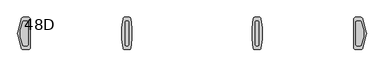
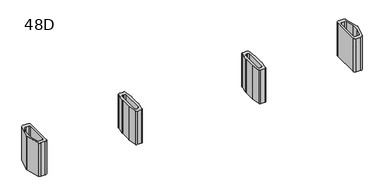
"""IFC4 building model written with IfcOpenShell, lengths in millimetres: furniture geometry, Coalesse_AM_Table_Conference_ETable2_SoftRadiused_24ft_FourBase : 48D."""

from ifc_helpers import new_model, si_unit, frame, origin, place, context, project, spatial, polyline, circle_curve, source, transform, mapped, element, save
from ifc_brep_helpers import plane_surface, cylinder_surface, revolved_surface, advanced_brep


def furniture_48d_02159c9c(model_context):
    return source(origin(), model_context, "Body", "AdvancedBrep", [
        advanced_brep(
        [(1254.91875, 206.375, 3.175), (1229.51875, 231.775, 3.175), (1208.88125, 231.775, 3.175), (1183.48125, 206.375, 3.175), (1183.48125, -206.375, 3.175), (1208.88125, -231.775, 3.175), (1229.51875, -231.775, 3.175), (1254.91875, -206.375, 3.175), (1158.08125, 206.375, 0.0), (1208.88125, 257.175, 0.0), (1229.51875, 257.175, 0.0), (1280.31875, 206.375, 0.0), (1280.31875, -206.375, 0.0), (1229.51875, -257.175, 0.0), (1208.88125, -257.175, 0.0), (1158.08125, -206.375, 0.0), (1158.08125, -206.375, 3.175), (1158.08125, 206.375, 3.175), (1208.88125, -257.175, 3.175), (1229.51875, -257.175, 3.175), (1280.31875, -206.375, 3.175), (1280.31875, 206.375, 3.175), (1229.51875, 257.175, 3.175), (1208.88125, 257.175, 3.175), (1126.5784026, 106.2976848, 698.5), (1126.33125, 102.7629613, 698.5), (1126.33125, -102.7629613, 698.5), (1126.5784026, -106.2976848, 698.5), (1151.4011625, -282.9347235, 698.5), (1176.5540098, -304.8, 698.5), (1261.8459902, -304.8, 698.5), (1286.9988375, -282.9347235, 698.5), (1311.8215974, -106.2976848, 698.5), (1312.06875, -102.7629613, 698.5), (1312.06875, 102.7629613, 698.5), (1311.8215974, 106.2976848, 698.5), (1286.9988375, 282.9347235, 698.5), (1261.8459902, 304.8, 698.5), (1176.5540098, 304.8, 698.5), (1151.4011625, 282.9347235, 698.5), (1229.51875, 231.775, 698.5), (1254.91875, 206.375, 698.5), (1254.91875, -206.375, 698.5), (1229.51875, -231.775, 698.5), (1208.88125, -231.775, 698.5), (1183.48125, -206.375, 698.5), (1183.48125, 206.375, 698.5), (1208.88125, 231.775, 698.5), (1126.5784026, 106.2976848, 3.175), (1151.4011625, 282.9347235, 3.175), (1176.5540098, 304.8, 3.175), (1261.8459902, 304.8, 3.175), (1286.9988375, 282.9347235, 3.175), (1311.8215974, 106.2976848, 3.175), (1312.06875, 102.7629613, 3.175), (1312.06875, -102.7629613, 3.175), (1311.8215974, -106.2976848, 3.175), (1286.9988375, -282.9347235, 3.175), (1261.8459902, -304.8, 3.175), (1176.5540098, -304.8, 3.175), (1151.4011625, -282.9347235, 3.175), (1126.5784026, -106.2976848, 3.175), (1126.33125, -102.7629613, 3.175), (1126.33125, 102.7629613, 3.175)],
        [
            (0, 1, circle_curve(frame((1229.51875, 206.375, 3.175), z_axis=(0.0, 0.0, 1.0), x_axis=(1.0, 0.0, 0.0)), 25.4)),
            (1, 2),
            (2, 3, circle_curve(frame((1208.88125, 206.375, 3.175), z_axis=(0.0, 0.0, 1.0), x_axis=(1.0, 0.0, 0.0)), 25.4)),
            (3, 4),
            (4, 5, circle_curve(frame((1208.88125, -206.375, 3.175), z_axis=(0.0, 0.0, 1.0), x_axis=(1.0, 0.0, 0.0)), 25.4)),
            (5, 6),
            (6, 7, circle_curve(frame((1229.51875, -206.375, 3.175), z_axis=(0.0, 0.0, 1.0), x_axis=(1.0, 0.0, 0.0)), 25.4)),
            (7, 0),
            (8, 9, circle_curve(frame((1208.88125, 206.375, 0.0), z_axis=(0.0, 0.0, -1.0), x_axis=(1.0, 0.0, 0.0)), 50.8)),
            (9, 10),
            (10, 11, circle_curve(frame((1229.51875, 206.375, 0.0), z_axis=(0.0, 0.0, -1.0), x_axis=(1.0, 0.0, 0.0)), 50.8)),
            (11, 12),
            (12, 13, circle_curve(frame((1229.51875, -206.375, 0.0), z_axis=(0.0, 0.0, -1.0), x_axis=(1.0, 0.0, 0.0)), 50.8)),
            (13, 14),
            (14, 15, circle_curve(frame((1208.88125, -206.375, 0.0), z_axis=(0.0, 0.0, -1.0), x_axis=(1.0, 0.0, 0.0)), 50.8)),
            (15, 8),
            (15, 16),
            (16, 17),
            (17, 8),
            (14, 18),
            (18, 16, circle_curve(frame((1208.88125, -206.375, 3.175), z_axis=(0.0, 0.0, -1.0), x_axis=(1.0, 0.0, 0.0)), 50.8)),
            (13, 19),
            (19, 18),
            (12, 20),
            (20, 19, circle_curve(frame((1229.51875, -206.375, 3.175), z_axis=(0.0, 0.0, -1.0), x_axis=(1.0, 0.0, 0.0)), 50.8)),
            (11, 21),
            (21, 20),
            (10, 22),
            (22, 21, circle_curve(frame((1229.51875, 206.375, 3.175), z_axis=(0.0, 0.0, -1.0), x_axis=(1.0, 0.0, 0.0)), 50.8)),
            (9, 23),
            (23, 22),
            (17, 23, circle_curve(frame((1208.88125, 206.375, 3.175), z_axis=(0.0, 0.0, -1.0), x_axis=(1.0, 0.0, 0.0)), 50.8)),
            (24, 25, circle_curve(frame((1151.73125, 102.7629613, 698.5), z_axis=(0.0, 0.0, 1.0), x_axis=(1.0, 0.0, 0.0)), 25.4)),
            (25, 26),
            (26, 27, circle_curve(frame((1151.73125, -102.7629613, 698.5), z_axis=(0.0, 0.0, 1.0), x_axis=(1.0, 0.0, 0.0)), 25.4)),
            (27, 28),
            (28, 29, circle_curve(frame((1176.5540098, -279.4, 698.5), z_axis=(0.0, 0.0, 1.0), x_axis=(1.0, 0.0, 0.0)), 25.4)),
            (29, 30),
            (30, 31, circle_curve(frame((1261.8459902, -279.4, 698.5), z_axis=(0.0, 0.0, 1.0), x_axis=(1.0, 0.0, 0.0)), 25.4)),
            (31, 32),
            (32, 33, circle_curve(frame((1286.66875, -102.7629613, 698.5), z_axis=(0.0, 0.0, 1.0), x_axis=(1.0, 0.0, 0.0)), 25.4)),
            (33, 34),
            (34, 35, circle_curve(frame((1286.66875, 102.7629613, 698.5), z_axis=(0.0, 0.0, 1.0), x_axis=(1.0, 0.0, 0.0)), 25.4)),
            (35, 36),
            (36, 37, circle_curve(frame((1261.8459902, 279.4, 698.5), z_axis=(0.0, 0.0, 1.0), x_axis=(1.0, 0.0, 0.0)), 25.4)),
            (37, 38),
            (38, 39, circle_curve(frame((1176.5540098, 279.4, 698.5), z_axis=(0.0, 0.0, 1.0), x_axis=(1.0, 0.0, 0.0)), 25.4)),
            (39, 24),
            (40, 41, circle_curve(frame((1229.51875, 206.375, 698.5), z_axis=(0.0, 0.0, -1.0), x_axis=(1.0, 0.0, 0.0)), 25.4)),
            (41, 42),
            (42, 43, circle_curve(frame((1229.51875, -206.375, 698.5), z_axis=(0.0, 0.0, -1.0), x_axis=(1.0, 0.0, 0.0)), 25.4)),
            (43, 44),
            (44, 45, circle_curve(frame((1208.88125, -206.375, 698.5), z_axis=(0.0, 0.0, -1.0), x_axis=(1.0, 0.0, 0.0)), 25.4)),
            (45, 46),
            (46, 47, circle_curve(frame((1208.88125, 206.375, 698.5), z_axis=(0.0, 0.0, -1.0), x_axis=(1.0, 0.0, 0.0)), 25.4)),
            (47, 40),
            (48, 49),
            (49, 50, circle_curve(frame((1176.5540098, 279.4, 3.175), z_axis=(0.0, 0.0, -1.0), x_axis=(1.0, 0.0, 0.0)), 25.4)),
            (50, 51),
            (51, 52, circle_curve(frame((1261.8459902, 279.4, 3.175), z_axis=(0.0, 0.0, -1.0), x_axis=(1.0, 0.0, 0.0)), 25.4)),
            (52, 53),
            (53, 54, circle_curve(frame((1286.66875, 102.7629613, 3.175), z_axis=(0.0, 0.0, -1.0), x_axis=(1.0, 0.0, 0.0)), 25.4)),
            (54, 55),
            (55, 56, circle_curve(frame((1286.66875, -102.7629613, 3.175), z_axis=(0.0, 0.0, -1.0), x_axis=(1.0, 0.0, 0.0)), 25.4)),
            (56, 57),
            (57, 58, circle_curve(frame((1261.8459902, -279.4, 3.175), z_axis=(0.0, 0.0, -1.0), x_axis=(1.0, 0.0, 0.0)), 25.4)),
            (58, 59),
            (59, 60, circle_curve(frame((1176.5540098, -279.4, 3.175), z_axis=(0.0, 0.0, -1.0), x_axis=(1.0, 0.0, 0.0)), 25.4)),
            (60, 61),
            (61, 62, circle_curve(frame((1151.73125, -102.7629613, 3.175), z_axis=(0.0, 0.0, -1.0), x_axis=(1.0, 0.0, 0.0)), 25.4)),
            (62, 63),
            (63, 48, circle_curve(frame((1151.73125, 102.7629613, 3.175), z_axis=(0.0, 0.0, -1.0), x_axis=(1.0, 0.0, 0.0)), 25.4)),
            (24, 48),
            (63, 25),
            (62, 26),
            (61, 27),
            (60, 28),
            (59, 29),
            (58, 30),
            (57, 31),
            (56, 32),
            (55, 33),
            (54, 34),
            (53, 35),
            (52, 36),
            (51, 37),
            (50, 38),
            (49, 39),
            (40, 1),
            (0, 41),
            (7, 42),
            (6, 43),
            (5, 44),
            (4, 45),
            (3, 46),
            (2, 47),
        ],
        [
            plane_surface(frame((1158.08125, -206.375, 3.175), z_axis=(0.0, 0.0, 1.0), x_axis=(0.0, -1.0, 0.0))),
            plane_surface(frame((1158.08125, -206.375, 0.0), z_axis=(0.0, 0.0, -1.0), x_axis=(0.0, 1.0, 0.0))),
            plane_surface(frame((1158.08125, 206.375, 3.175), z_axis=(-1.0, 0.0, 0.0), x_axis=(0.0, 0.0, -1.0))),
            cylinder_surface(frame((1208.88125, -206.375, 0.0), z_axis=(0.0, 0.0, 1.0), x_axis=(1.0, 0.0, 0.0)), 50.8),
            plane_surface(frame((1208.88125, -257.175, 3.175), z_axis=(0.0, -1.0, 0.0), x_axis=(0.0, 0.0, -1.0))),
            cylinder_surface(frame((1229.51875, -206.375, 0.0), z_axis=(0.0, 0.0, 1.0), x_axis=(1.0, 0.0, 0.0)), 50.8),
            plane_surface(frame((1280.31875, -206.375, 3.175), z_axis=(1.0, 0.0, 0.0), x_axis=(0.0, 0.0, -1.0))),
            cylinder_surface(frame((1229.51875, 206.375, 0.0), z_axis=(0.0, 0.0, 1.0), x_axis=(1.0, 0.0, 0.0)), 50.8),
            plane_surface(frame((1229.51875, 257.175, 3.175), z_axis=(0.0, 1.0, 0.0), x_axis=(0.0, 0.0, -1.0))),
            cylinder_surface(frame((1208.88125, 206.375, 0.0), z_axis=(0.0, 0.0, 1.0), x_axis=(1.0, 0.0, 0.0)), 50.8),
            plane_surface(frame((1177.13125, 102.7629613, 698.5), z_axis=(0.0, 0.0, 1.0), x_axis=(0.0, 1.0, 0.0))),
            plane_surface(frame((1177.13125, 102.7629613, 3.175), z_axis=(0.0, 0.0, -1.0), x_axis=(0.0, -1.0, 0.0))),
            cylinder_surface(frame((1151.73125, 102.7629613, 3.175), z_axis=(0.0, 0.0, 1.0), x_axis=(1.0, 0.0, 0.0)), 25.4),
            plane_surface(frame((1126.33125, 102.7629613, 698.5), z_axis=(-1.0, 0.0, 0.0), x_axis=(0.0, 0.0, -1.0))),
            cylinder_surface(frame((1151.73125, -102.7629613, 3.175), z_axis=(0.0, 0.0, 1.0), x_axis=(1.0, 0.0, 0.0)), 25.4),
            plane_surface(frame((1126.5784026, -106.2976848, 698.5), z_axis=(-0.9902695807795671, -0.13916234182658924, 0.0), x_axis=(0.0, 0.0, -1.0))),
            cylinder_surface(frame((1176.5540098, -279.4, 3.175), z_axis=(0.0, 0.0, 1.0), x_axis=(1.0, 0.0, 0.0)), 25.4),
            plane_surface(frame((1176.5540098, -304.8, 698.5), z_axis=(0.0, -1.0, 0.0), x_axis=(0.0, 0.0, -1.0))),
            cylinder_surface(frame((1261.8459902, -279.4, 3.175), z_axis=(0.0, 0.0, 1.0), x_axis=(1.0, 0.0, 0.0)), 25.4),
            plane_surface(frame((1286.9988375, -282.9347235, 698.5), z_axis=(0.9902695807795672, -0.13916234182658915, 0.0), x_axis=(0.0, 0.0, -1.0))),
            cylinder_surface(frame((1286.66875, -102.7629613, 3.175), z_axis=(0.0, 0.0, 1.0), x_axis=(1.0, 0.0, 0.0)), 25.4),
            plane_surface(frame((1312.06875, -102.7629613, 698.5), z_axis=(1.0, 0.0, 0.0), x_axis=(0.0, 0.0, -1.0))),
            cylinder_surface(frame((1286.66875, 102.7629613, 3.175), z_axis=(0.0, 0.0, 1.0), x_axis=(1.0, 0.0, 0.0)), 25.4),
            plane_surface(frame((1311.8215974, 106.2976848, 698.5), z_axis=(0.9902695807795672, 0.1391623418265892, 0.0), x_axis=(0.0, 0.0, -1.0))),
            cylinder_surface(frame((1261.8459902, 279.4, 3.175), z_axis=(0.0, 0.0, 1.0), x_axis=(1.0, 0.0, 0.0)), 25.4),
            plane_surface(frame((1261.8459902, 304.8, 698.5), z_axis=(0.0, 1.0, 0.0), x_axis=(0.0, 0.0, -1.0))),
            cylinder_surface(frame((1176.5540098, 279.4, 3.175), z_axis=(0.0, 0.0, 1.0), x_axis=(1.0, 0.0, 0.0)), 25.4),
            plane_surface(frame((1151.4011625, 282.9347235, 698.5), z_axis=(-0.9902695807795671, 0.13916234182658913, 0.0), x_axis=(0.0, 0.0, -1.0))),
            revolved_surface(polyline([(1254.91875, 206.375, 3.175), (1254.91875, 206.375, 698.5)]), (1229.51875, 206.375, 0.0), (0.0, 0.0, -1.0)),
            plane_surface(frame((1254.91875, 206.375, 698.5), z_axis=(-1.0, 0.0, 0.0), x_axis=(0.0, 0.0, -1.0))),
            revolved_surface(polyline([(1254.91875, -206.375, 3.175), (1254.91875, -206.375, 698.5)]), (1229.51875, -206.375, 0.0), (0.0, 0.0, -1.0)),
            plane_surface(frame((1229.51875, -231.775, 698.5), z_axis=(0.0, 1.0, 0.0), x_axis=(0.0, 0.0, -1.0))),
            revolved_surface(polyline([(1234.28125, -206.375, 3.175), (1234.28125, -206.375, 698.5)]), (1208.88125, -206.375, 0.0), (0.0, 0.0, -1.0)),
            plane_surface(frame((1183.48125, -206.375, 698.5), z_axis=(1.0, 0.0, 0.0), x_axis=(0.0, 0.0, -1.0))),
            revolved_surface(polyline([(1234.28125, 206.375, 3.175), (1234.28125, 206.375, 698.5)]), (1208.88125, 206.375, 0.0), (0.0, 0.0, -1.0)),
            plane_surface(frame((1208.88125, 231.775, 698.5), z_axis=(0.0, -1.0, 0.0), x_axis=(0.0, 0.0, -1.0))),
        ],
        [
            (0, [[1, 2, 3, 4, 5, 6, 7, 8]]),
            (1, [[9, 10, 11, 12, 13, 14, 15, 16]]),
            (2, [[-16, 17, 18, 19]]),
            (3, [[-15, 20, 21, -17]]),
            (4, [[-14, 22, 23, -20]]),
            (5, [[-13, 24, 25, -22]]),
            (6, [[-12, 26, 27, -24]]),
            (7, [[-11, 28, 29, -26]]),
            (8, [[-10, 30, 31, -28]]),
            (9, [[-9, -19, 32, -30]]),
            (10, [[33, 34, 35, 36, 37, 38, 39, 40, 41, 42, 43, 44, 45, 46, 47, 48], [49, 50, 51, 52, 53, 54, 55, 56]]),
            (11, [[57, 58, 59, 60, 61, 62, 63, 64, 65, 66, 67, 68, 69, 70, 71, 72], [-18, -21, -23, -25, -27, -29, -31, -32]]),
            (12, [[-33, 73, -72, 74]]),
            (13, [[-34, -74, -71, 75]]),
            (14, [[-35, -75, -70, 76]]),
            (15, [[-36, -76, -69, 77]]),
            (16, [[-37, -77, -68, 78]]),
            (17, [[-38, -78, -67, 79]]),
            (18, [[-39, -79, -66, 80]]),
            (19, [[-40, -80, -65, 81]]),
            (20, [[-41, -81, -64, 82]]),
            (21, [[-42, -82, -63, 83]]),
            (22, [[-43, -83, -62, 84]]),
            (23, [[-44, -84, -61, 85]]),
            (24, [[-45, -85, -60, 86]]),
            (25, [[-46, -86, -59, 87]]),
            (26, [[-47, -87, -58, 88]]),
            (27, [[-48, -88, -57, -73]]),
            (28, [[-49, 89, -1, 90]]),
            (29, [[-50, -90, -8, 91]]),
            (30, [[-51, -91, -7, 92]]),
            (31, [[-52, -92, -6, 93]]),
            (32, [[-53, -93, -5, 94]]),
            (33, [[-54, -94, -4, 95]]),
            (34, [[-55, -95, -3, 96]]),
            (35, [[-56, -96, -2, -89]]),
        ],
    ),
        advanced_brep(
        [(-1183.48125, 206.375, 3.175), (-1208.88125, 231.775, 3.175), (-1229.51875, 231.775, 3.175), (-1254.91875, 206.375, 3.175), (-1254.91875, -206.375, 3.175), (-1229.51875, -231.775, 3.175), (-1208.88125, -231.775, 3.175), (-1183.48125, -206.375, 3.175), (-1280.31875, 206.375, 0.0), (-1229.51875, 257.175, 0.0), (-1208.88125, 257.175, 0.0), (-1158.08125, 206.375, 0.0), (-1158.08125, -206.375, 0.0), (-1208.88125, -257.175, 0.0), (-1229.51875, -257.175, 0.0), (-1280.31875, -206.375, 0.0), (-1280.31875, -206.375, 3.175), (-1280.31875, 206.375, 3.175), (-1229.51875, -257.175, 3.175), (-1208.88125, -257.175, 3.175), (-1158.08125, -206.375, 3.175), (-1158.08125, 206.375, 3.175), (-1208.88125, 257.175, 3.175), (-1229.51875, 257.175, 3.175), (-1311.8215974, 106.2976848, 698.5), (-1312.06875, 102.7629613, 698.5), (-1312.06875, -102.7629613, 698.5), (-1311.8215974, -106.2976848, 698.5), (-1286.9988375, -282.9347235, 698.5), (-1261.8459902, -304.8, 698.5), (-1176.5540098, -304.8, 698.5), (-1151.4011625, -282.9347235, 698.5), (-1126.5784026, -106.2976848, 698.5), (-1126.33125, -102.7629613, 698.5), (-1126.33125, 102.7629613, 698.5), (-1126.5784026, 106.2976848, 698.5), (-1151.4011625, 282.9347235, 698.5), (-1176.5540098, 304.8, 698.5), (-1261.8459902, 304.8, 698.5), (-1286.9988375, 282.9347235, 698.5), (-1208.88125, 231.775, 698.5), (-1183.48125, 206.375, 698.5), (-1183.48125, -206.375, 698.5), (-1208.88125, -231.775, 698.5), (-1229.51875, -231.775, 698.5), (-1254.91875, -206.375, 698.5), (-1254.91875, 206.375, 698.5), (-1229.51875, 231.775, 698.5), (-1311.8215974, 106.2976848, 3.175), (-1286.9988375, 282.9347235, 3.175), (-1261.8459902, 304.8, 3.175), (-1176.5540098, 304.8, 3.175), (-1151.4011625, 282.9347235, 3.175), (-1126.5784026, 106.2976848, 3.175), (-1126.33125, 102.7629613, 3.175), (-1126.33125, -102.7629613, 3.175), (-1126.5784026, -106.2976848, 3.175), (-1151.4011625, -282.9347235, 3.175), (-1176.5540098, -304.8, 3.175), (-1261.8459902, -304.8, 3.175), (-1286.9988375, -282.9347235, 3.175), (-1311.8215974, -106.2976848, 3.175), (-1312.06875, -102.7629613, 3.175), (-1312.06875, 102.7629613, 3.175)],
        [
            (0, 1, circle_curve(frame((-1208.88125, 206.375, 3.175), z_axis=(0.0, 0.0, 1.0), x_axis=(1.0, 0.0, 0.0)), 25.4)),
            (1, 2),
            (2, 3, circle_curve(frame((-1229.51875, 206.375, 3.175), z_axis=(0.0, 0.0, 1.0), x_axis=(1.0, 0.0, 0.0)), 25.4)),
            (3, 4),
            (4, 5, circle_curve(frame((-1229.51875, -206.375, 3.175), z_axis=(0.0, 0.0, 1.0), x_axis=(1.0, 0.0, 0.0)), 25.4)),
            (5, 6),
            (6, 7, circle_curve(frame((-1208.88125, -206.375, 3.175), z_axis=(0.0, 0.0, 1.0), x_axis=(1.0, 0.0, 0.0)), 25.4)),
            (7, 0),
            (8, 9, circle_curve(frame((-1229.51875, 206.375, 0.0), z_axis=(0.0, 0.0, -1.0), x_axis=(1.0, 0.0, 0.0)), 50.8)),
            (9, 10),
            (10, 11, circle_curve(frame((-1208.88125, 206.375, 0.0), z_axis=(0.0, 0.0, -1.0), x_axis=(1.0, 0.0, 0.0)), 50.8)),
            (11, 12),
            (12, 13, circle_curve(frame((-1208.88125, -206.375, 0.0), z_axis=(0.0, 0.0, -1.0), x_axis=(1.0, 0.0, 0.0)), 50.8)),
            (13, 14),
            (14, 15, circle_curve(frame((-1229.51875, -206.375, 0.0), z_axis=(0.0, 0.0, -1.0), x_axis=(1.0, 0.0, 0.0)), 50.8)),
            (15, 8),
            (15, 16),
            (16, 17),
            (17, 8),
            (14, 18),
            (18, 16, circle_curve(frame((-1229.51875, -206.375, 3.175), z_axis=(0.0, 0.0, -1.0), x_axis=(1.0, 0.0, 0.0)), 50.8)),
            (13, 19),
            (19, 18),
            (12, 20),
            (20, 19, circle_curve(frame((-1208.88125, -206.375, 3.175), z_axis=(0.0, 0.0, -1.0), x_axis=(1.0, 0.0, 0.0)), 50.8)),
            (11, 21),
            (21, 20),
            (10, 22),
            (22, 21, circle_curve(frame((-1208.88125, 206.375, 3.175), z_axis=(0.0, 0.0, -1.0), x_axis=(1.0, 0.0, 0.0)), 50.8)),
            (9, 23),
            (23, 22),
            (17, 23, circle_curve(frame((-1229.51875, 206.375, 3.175), z_axis=(0.0, 0.0, -1.0), x_axis=(1.0, 0.0, 0.0)), 50.8)),
            (24, 25, circle_curve(frame((-1286.66875, 102.7629613, 698.5), z_axis=(0.0, 0.0, 1.0), x_axis=(1.0, 0.0, 0.0)), 25.4)),
            (25, 26),
            (26, 27, circle_curve(frame((-1286.66875, -102.7629613, 698.5), z_axis=(0.0, 0.0, 1.0), x_axis=(1.0, 0.0, 0.0)), 25.4)),
            (27, 28),
            (28, 29, circle_curve(frame((-1261.8459902, -279.4, 698.5), z_axis=(0.0, 0.0, 1.0), x_axis=(1.0, 0.0, 0.0)), 25.4)),
            (29, 30),
            (30, 31, circle_curve(frame((-1176.5540098, -279.4, 698.5), z_axis=(0.0, 0.0, 1.0), x_axis=(1.0, 0.0, 0.0)), 25.4)),
            (31, 32),
            (32, 33, circle_curve(frame((-1151.73125, -102.7629613, 698.5), z_axis=(0.0, 0.0, 1.0), x_axis=(1.0, 0.0, 0.0)), 25.4)),
            (33, 34),
            (34, 35, circle_curve(frame((-1151.73125, 102.7629613, 698.5), z_axis=(0.0, 0.0, 1.0), x_axis=(1.0, 0.0, 0.0)), 25.4)),
            (35, 36),
            (36, 37, circle_curve(frame((-1176.5540098, 279.4, 698.5), z_axis=(0.0, 0.0, 1.0), x_axis=(1.0, 0.0, 0.0)), 25.4)),
            (37, 38),
            (38, 39, circle_curve(frame((-1261.8459902, 279.4, 698.5), z_axis=(0.0, 0.0, 1.0), x_axis=(1.0, 0.0, 0.0)), 25.4)),
            (39, 24),
            (40, 41, circle_curve(frame((-1208.88125, 206.375, 698.5), z_axis=(0.0, 0.0, -1.0), x_axis=(1.0, 0.0, 0.0)), 25.4)),
            (41, 42),
            (42, 43, circle_curve(frame((-1208.88125, -206.375, 698.5), z_axis=(0.0, 0.0, -1.0), x_axis=(1.0, 0.0, 0.0)), 25.4)),
            (43, 44),
            (44, 45, circle_curve(frame((-1229.51875, -206.375, 698.5), z_axis=(0.0, 0.0, -1.0), x_axis=(1.0, 0.0, 0.0)), 25.4)),
            (45, 46),
            (46, 47, circle_curve(frame((-1229.51875, 206.375, 698.5), z_axis=(0.0, 0.0, -1.0), x_axis=(1.0, 0.0, 0.0)), 25.4)),
            (47, 40),
            (48, 49),
            (49, 50, circle_curve(frame((-1261.8459902, 279.4, 3.175), z_axis=(0.0, 0.0, -1.0), x_axis=(1.0, 0.0, 0.0)), 25.4)),
            (50, 51),
            (51, 52, circle_curve(frame((-1176.5540098, 279.4, 3.175), z_axis=(0.0, 0.0, -1.0), x_axis=(1.0, 0.0, 0.0)), 25.4)),
            (52, 53),
            (53, 54, circle_curve(frame((-1151.73125, 102.7629613, 3.175), z_axis=(0.0, 0.0, -1.0), x_axis=(1.0, 0.0, 0.0)), 25.4)),
            (54, 55),
            (55, 56, circle_curve(frame((-1151.73125, -102.7629613, 3.175), z_axis=(0.0, 0.0, -1.0), x_axis=(1.0, 0.0, 0.0)), 25.4)),
            (56, 57),
            (57, 58, circle_curve(frame((-1176.5540098, -279.4, 3.175), z_axis=(0.0, 0.0, -1.0), x_axis=(1.0, 0.0, 0.0)), 25.4)),
            (58, 59),
            (59, 60, circle_curve(frame((-1261.8459902, -279.4, 3.175), z_axis=(0.0, 0.0, -1.0), x_axis=(1.0, 0.0, 0.0)), 25.4)),
            (60, 61),
            (61, 62, circle_curve(frame((-1286.66875, -102.7629613, 3.175), z_axis=(0.0, 0.0, -1.0), x_axis=(1.0, 0.0, 0.0)), 25.4)),
            (62, 63),
            (63, 48, circle_curve(frame((-1286.66875, 102.7629613, 3.175), z_axis=(0.0, 0.0, -1.0), x_axis=(1.0, 0.0, 0.0)), 25.4)),
            (24, 48),
            (63, 25),
            (62, 26),
            (61, 27),
            (60, 28),
            (59, 29),
            (58, 30),
            (57, 31),
            (56, 32),
            (55, 33),
            (54, 34),
            (53, 35),
            (52, 36),
            (51, 37),
            (50, 38),
            (49, 39),
            (40, 1),
            (0, 41),
            (7, 42),
            (6, 43),
            (5, 44),
            (4, 45),
            (3, 46),
            (2, 47),
        ],
        [
            plane_surface(frame((-1280.31875, -206.375, 3.175), z_axis=(0.0, 0.0, 1.0), x_axis=(0.0, -1.0, 0.0))),
            plane_surface(frame((-1280.31875, -206.375, 0.0), z_axis=(0.0, 0.0, -1.0), x_axis=(0.0, 1.0, 0.0))),
            plane_surface(frame((-1280.31875, 206.375, 3.175), z_axis=(-1.0, 0.0, 0.0), x_axis=(0.0, 0.0, -1.0))),
            cylinder_surface(frame((-1229.51875, -206.375, 0.0), z_axis=(0.0, 0.0, 1.0), x_axis=(1.0, 0.0, 0.0)), 50.8),
            plane_surface(frame((-1229.51875, -257.175, 3.175), z_axis=(0.0, -1.0, 0.0), x_axis=(0.0, 0.0, -1.0))),
            cylinder_surface(frame((-1208.88125, -206.375, 0.0), z_axis=(0.0, 0.0, 1.0), x_axis=(1.0, 0.0, 0.0)), 50.8),
            plane_surface(frame((-1158.08125, -206.375, 3.175), z_axis=(1.0, 0.0, 0.0), x_axis=(0.0, 0.0, -1.0))),
            cylinder_surface(frame((-1208.88125, 206.375, 0.0), z_axis=(0.0, 0.0, 1.0), x_axis=(1.0, 0.0, 0.0)), 50.8),
            plane_surface(frame((-1208.88125, 257.175, 3.175), z_axis=(0.0, 1.0, 0.0), x_axis=(0.0, 0.0, -1.0))),
            cylinder_surface(frame((-1229.51875, 206.375, 0.0), z_axis=(0.0, 0.0, 1.0), x_axis=(1.0, 0.0, 0.0)), 50.8),
            plane_surface(frame((-1261.26875, 102.7629613, 698.5), z_axis=(0.0, 0.0, 1.0), x_axis=(0.0, 1.0, 0.0))),
            plane_surface(frame((-1261.26875, 102.7629613, 3.175), z_axis=(0.0, 0.0, -1.0), x_axis=(0.0, -1.0, 0.0))),
            cylinder_surface(frame((-1286.66875, 102.7629613, 3.175), z_axis=(0.0, 0.0, 1.0), x_axis=(1.0, 0.0, 0.0)), 25.4),
            plane_surface(frame((-1312.06875, 102.7629613, 698.5), z_axis=(-1.0, 0.0, 0.0), x_axis=(0.0, 0.0, -1.0))),
            cylinder_surface(frame((-1286.66875, -102.7629613, 3.175), z_axis=(0.0, 0.0, 1.0), x_axis=(1.0, 0.0, 0.0)), 25.4),
            plane_surface(frame((-1311.8215974, -106.2976848, 698.5), z_axis=(-0.9902695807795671, -0.13916234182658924, 0.0), x_axis=(0.0, 0.0, -1.0))),
            cylinder_surface(frame((-1261.8459902, -279.4, 3.175), z_axis=(0.0, 0.0, 1.0), x_axis=(1.0, 0.0, 0.0)), 25.4),
            plane_surface(frame((-1261.8459902, -304.8, 698.5), z_axis=(0.0, -1.0, 0.0), x_axis=(0.0, 0.0, -1.0))),
            cylinder_surface(frame((-1176.5540098, -279.4, 3.175), z_axis=(0.0, 0.0, 1.0), x_axis=(1.0, 0.0, 0.0)), 25.4),
            plane_surface(frame((-1151.4011625, -282.9347235, 698.5), z_axis=(0.9902695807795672, -0.13916234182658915, 0.0), x_axis=(0.0, 0.0, -1.0))),
            cylinder_surface(frame((-1151.73125, -102.7629613, 3.175), z_axis=(0.0, 0.0, 1.0), x_axis=(1.0, 0.0, 0.0)), 25.4),
            plane_surface(frame((-1126.33125, -102.7629613, 698.5), z_axis=(1.0, 0.0, 0.0), x_axis=(0.0, 0.0, -1.0))),
            cylinder_surface(frame((-1151.73125, 102.7629613, 3.175), z_axis=(0.0, 0.0, 1.0), x_axis=(1.0, 0.0, 0.0)), 25.4),
            plane_surface(frame((-1126.5784026, 106.2976848, 698.5), z_axis=(0.9902695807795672, 0.1391623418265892, 0.0), x_axis=(0.0, 0.0, -1.0))),
            cylinder_surface(frame((-1176.5540098, 279.4, 3.175), z_axis=(0.0, 0.0, 1.0), x_axis=(1.0, 0.0, 0.0)), 25.4),
            plane_surface(frame((-1176.5540098, 304.8, 698.5), z_axis=(0.0, 1.0, 0.0), x_axis=(0.0, 0.0, -1.0))),
            cylinder_surface(frame((-1261.8459902, 279.4, 3.175), z_axis=(0.0, 0.0, 1.0), x_axis=(1.0, 0.0, 0.0)), 25.4),
            plane_surface(frame((-1286.9988375, 282.9347235, 698.5), z_axis=(-0.9902695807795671, 0.13916234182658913, 0.0), x_axis=(0.0, 0.0, -1.0))),
            revolved_surface(polyline([(-1183.4812499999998, 206.375, 3.175), (-1183.4812499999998, 206.375, 698.5)]), (-1208.88125, 206.375, 0.0), (0.0, 0.0, -1.0)),
            plane_surface(frame((-1183.48125, 206.375, 698.5), z_axis=(-1.0, 0.0, 0.0), x_axis=(0.0, 0.0, -1.0))),
            revolved_surface(polyline([(-1183.4812499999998, -206.375, 3.175), (-1183.4812499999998, -206.375, 698.5)]), (-1208.88125, -206.375, 0.0), (0.0, 0.0, -1.0)),
            plane_surface(frame((-1208.88125, -231.775, 698.5), z_axis=(0.0, 1.0, 0.0), x_axis=(0.0, 0.0, -1.0))),
            revolved_surface(polyline([(-1204.1187499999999, -206.375, 3.175), (-1204.1187499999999, -206.375, 698.5)]), (-1229.51875, -206.375, 0.0), (0.0, 0.0, -1.0)),
            plane_surface(frame((-1254.91875, -206.375, 698.5), z_axis=(1.0, 0.0, 0.0), x_axis=(0.0, 0.0, -1.0))),
            revolved_surface(polyline([(-1204.1187499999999, 206.375, 3.175), (-1204.1187499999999, 206.375, 698.5)]), (-1229.51875, 206.375, 0.0), (0.0, 0.0, -1.0)),
            plane_surface(frame((-1229.51875, 231.775, 698.5), z_axis=(0.0, -1.0, 0.0), x_axis=(0.0, 0.0, -1.0))),
        ],
        [
            (0, [[1, 2, 3, 4, 5, 6, 7, 8]]),
            (1, [[9, 10, 11, 12, 13, 14, 15, 16]]),
            (2, [[-16, 17, 18, 19]]),
            (3, [[-15, 20, 21, -17]]),
            (4, [[-14, 22, 23, -20]]),
            (5, [[-13, 24, 25, -22]]),
            (6, [[-12, 26, 27, -24]]),
            (7, [[-11, 28, 29, -26]]),
            (8, [[-10, 30, 31, -28]]),
            (9, [[-9, -19, 32, -30]]),
            (10, [[33, 34, 35, 36, 37, 38, 39, 40, 41, 42, 43, 44, 45, 46, 47, 48], [49, 50, 51, 52, 53, 54, 55, 56]]),
            (11, [[57, 58, 59, 60, 61, 62, 63, 64, 65, 66, 67, 68, 69, 70, 71, 72], [-18, -21, -23, -25, -27, -29, -31, -32]]),
            (12, [[-33, 73, -72, 74]]),
            (13, [[-34, -74, -71, 75]]),
            (14, [[-35, -75, -70, 76]]),
            (15, [[-36, -76, -69, 77]]),
            (16, [[-37, -77, -68, 78]]),
            (17, [[-38, -78, -67, 79]]),
            (18, [[-39, -79, -66, 80]]),
            (19, [[-40, -80, -65, 81]]),
            (20, [[-41, -81, -64, 82]]),
            (21, [[-42, -82, -63, 83]]),
            (22, [[-43, -83, -62, 84]]),
            (23, [[-44, -84, -61, 85]]),
            (24, [[-45, -85, -60, 86]]),
            (25, [[-46, -86, -59, 87]]),
            (26, [[-47, -87, -58, 88]]),
            (27, [[-48, -88, -57, -73]]),
            (28, [[-49, 89, -1, 90]]),
            (29, [[-50, -90, -8, 91]]),
            (30, [[-51, -91, -7, 92]]),
            (31, [[-52, -92, -6, 93]]),
            (32, [[-53, -93, -5, 94]]),
            (33, [[-54, -94, -4, 95]]),
            (34, [[-55, -95, -3, 96]]),
            (35, [[-56, -96, -2, -89]]),
        ],
    ),
        advanced_brep(
        [(3199.024548, 274.2093613, 698.5), (3159.1579246, 304.8, 698.5), (3070.225, 304.8, 698.5), (3028.95, 263.525, 698.5), (3028.95, -263.525, 698.5), (3070.225, -304.8, 698.5), (3159.1579246, -304.8, 698.5), (3199.024548, -274.2093613, 698.5), (3269.6503901, -10.6333708, 698.5), (3269.6503901, 10.6333708, 698.5), (3067.05, -206.375, 698.5), (3067.05, 206.375, 698.5), (3092.45, 231.775, 698.5), (3151.4608422, 231.775, 698.5), (3175.995338, 212.9490792, 698.5), (3214.6875, 68.54974, 698.5), (3214.6875, -68.54974, 698.5), (3175.995338, -212.9490792, 698.5), (3151.4608422, -231.775, 698.5), (3092.45, -231.775, 698.5), (3199.024548, 274.2093613, 3.175), (3269.6503901, 10.6333708, 3.175), (3269.6503901, -10.6333708, 3.175), (3199.024548, -274.2093613, 3.175), (3159.1579246, -304.8, 3.175), (3070.225, -304.8, 3.175), (3028.95, -263.525, 3.175), (3028.95, 263.525, 3.175), (3070.225, 304.8, 3.175), (3159.1579246, 304.8, 3.175), (3188.2625859, 216.2361187, 3.175), (3151.4608422, 244.475, 3.175), (3092.45, 244.475, 3.175), (3054.35, 206.375, 3.175), (3054.35, -206.375, 3.175), (3092.45, -244.475, 3.175), (3151.4608422, -244.475, 3.175), (3188.2625859, -216.2361187, 3.175), (3227.3875, -70.2217466, 3.175), (3227.3875, 70.2217466, 3.175), (3092.45, -231.775, 3.175), (3067.05, -206.375, 3.175), (3151.4608422, -231.775, 3.175), (3175.995338, -212.9490792, 3.175), (3214.6875, -68.54974, 3.175), (3214.6875, 68.54974, 3.175), (3175.995338, 212.9490792, 3.175), (3151.4608422, 231.775, 3.175), (3092.45, 231.775, 3.175), (3067.05, 206.375, 3.175), (3188.2625859, 216.2361187, 0.0), (3227.3875, 70.2217466, 0.0), (3227.3875, -70.2217466, 0.0), (3188.2625859, -216.2361187, 0.0), (3151.4608422, -244.475, 0.0), (3092.45, -244.475, 0.0), (3054.35, -206.375, 0.0), (3054.35, 206.375, 0.0), (3092.45, 244.475, 0.0), (3151.4608422, 244.475, 0.0)],
        [
            (0, 1, circle_curve(frame((3159.1579246, 263.5270004, 698.5), z_axis=(0.0, 0.0, 1.0), x_axis=(-1.0, 0.0, 0.0)), 41.2729996)),
            (1, 2),
            (2, 3, circle_curve(frame((3070.225, 263.525, 698.5), z_axis=(0.0, 0.0, 1.0), x_axis=(-1.0, 0.0, 0.0)), 41.275)),
            (3, 4),
            (4, 5, circle_curve(frame((3070.225, -263.525, 698.5), z_axis=(0.0, 0.0, 1.0), x_axis=(-1.0, 0.0, 0.0)), 41.275)),
            (5, 6),
            (6, 7, circle_curve(frame((3159.1579246, -263.5270004, 698.5), z_axis=(0.0, 0.0, 1.0), x_axis=(-1.0, 0.0, 0.0)), 41.2729996)),
            (7, 8),
            (8, 9, circle_curve(frame((3229.9665979, 0.0, 698.5), z_axis=(0.0, 0.0, 1.0), x_axis=(-1.0, 0.0, 0.0)), 41.0837187)),
            (9, 0),
            (10, 11),
            (11, 12, circle_curve(frame((3092.45, 206.375, 698.5), z_axis=(0.0, 0.0, -1.0), x_axis=(-1.0, 0.0, 0.0)), 25.4)),
            (12, 13),
            (13, 14, circle_curve(frame((3151.4608422, 206.375, 698.5), z_axis=(0.0, 0.0, -1.0), x_axis=(-1.0, 0.0, 0.0)), 25.4)),
            (14, 15),
            (15, 16),
            (16, 17),
            (17, 18, circle_curve(frame((3151.4608422, -206.375, 698.5), z_axis=(0.0, 0.0, -1.0), x_axis=(-1.0, 0.0, 0.0)), 25.4)),
            (18, 19),
            (19, 10, circle_curve(frame((3092.45, -206.375, 698.5), z_axis=(0.0, 0.0, -1.0), x_axis=(-1.0, 0.0, 0.0)), 25.4)),
            (20, 21),
            (21, 22, circle_curve(frame((3229.9665979, 0.0, 3.175), z_axis=(0.0, 0.0, -1.0), x_axis=(-1.0, 0.0, 0.0)), 41.0837187)),
            (22, 23),
            (23, 24, circle_curve(frame((3159.1579246, -263.5270004, 3.175), z_axis=(0.0, 0.0, -1.0), x_axis=(-1.0, 0.0, 0.0)), 41.2729996)),
            (24, 25),
            (25, 26, circle_curve(frame((3070.225, -263.525, 3.175), z_axis=(0.0, 0.0, -1.0), x_axis=(-1.0, 0.0, 0.0)), 41.275)),
            (26, 27),
            (27, 28, circle_curve(frame((3070.225, 263.525, 3.175), z_axis=(0.0, 0.0, -1.0), x_axis=(-1.0, 0.0, 0.0)), 41.275)),
            (28, 29),
            (29, 20, circle_curve(frame((3159.1579246, 263.5270004, 3.175), z_axis=(0.0, 0.0, -1.0), x_axis=(-1.0, 0.0, 0.0)), 41.2729996)),
            (30, 31, circle_curve(frame((3151.4608422, 206.375, 3.175), z_axis=(0.0, 0.0, 1.0), x_axis=(-1.0, 0.0, 0.0)), 38.1)),
            (31, 32),
            (32, 33, circle_curve(frame((3092.45, 206.375, 3.175), z_axis=(0.0, 0.0, 1.0), x_axis=(-1.0, 0.0, 0.0)), 38.1)),
            (33, 34),
            (34, 35, circle_curve(frame((3092.45, -206.375, 3.175), z_axis=(0.0, 0.0, 1.0), x_axis=(-1.0, 0.0, 0.0)), 38.1)),
            (35, 36),
            (36, 37, circle_curve(frame((3151.4608422, -206.375, 3.175), z_axis=(0.0, 0.0, 1.0), x_axis=(-1.0, 0.0, 0.0)), 38.1)),
            (37, 38),
            (38, 39),
            (39, 30),
            (9, 21),
            (20, 0),
            (8, 22),
            (7, 23),
            (6, 24),
            (5, 25),
            (4, 26),
            (3, 27),
            (2, 28),
            (1, 29),
            (19, 40),
            (40, 41, circle_curve(frame((3092.45, -206.375, 3.175), z_axis=(0.0, 0.0, -1.0), x_axis=(-1.0, 0.0, 0.0)), 25.4)),
            (41, 10),
            (18, 42),
            (42, 40),
            (17, 43),
            (43, 42, circle_curve(frame((3151.4608422, -206.375, 3.175), z_axis=(0.0, 0.0, -1.0), x_axis=(-1.0, 0.0, 0.0)), 25.4)),
            (16, 44),
            (44, 43),
            (15, 45),
            (45, 44),
            (14, 46),
            (46, 45),
            (13, 47),
            (47, 46, circle_curve(frame((3151.4608422, 206.375, 3.175), z_axis=(0.0, 0.0, -1.0), x_axis=(-1.0, 0.0, 0.0)), 25.4)),
            (12, 48),
            (48, 47),
            (11, 49),
            (49, 48, circle_curve(frame((3092.45, 206.375, 3.175), z_axis=(0.0, 0.0, -1.0), x_axis=(-1.0, 0.0, 0.0)), 25.4)),
            (41, 49),
            (50, 51),
            (51, 52),
            (52, 53),
            (53, 54, circle_curve(frame((3151.4608422, -206.375, 0.0), z_axis=(0.0, 0.0, -1.0), x_axis=(-1.0, 0.0, 0.0)), 38.1)),
            (54, 55),
            (55, 56, circle_curve(frame((3092.45, -206.375, 0.0), z_axis=(0.0, 0.0, -1.0), x_axis=(-1.0, 0.0, 0.0)), 38.1)),
            (56, 57),
            (57, 58, circle_curve(frame((3092.45, 206.375, 0.0), z_axis=(0.0, 0.0, -1.0), x_axis=(-1.0, 0.0, 0.0)), 38.1)),
            (58, 59),
            (59, 50, circle_curve(frame((3151.4608422, 206.375, 0.0), z_axis=(0.0, 0.0, -1.0), x_axis=(-1.0, 0.0, 0.0)), 38.1)),
            (50, 30),
            (39, 51),
            (38, 52),
            (37, 53),
            (36, 54),
            (35, 55),
            (34, 56),
            (33, 57),
            (32, 58),
            (31, 59),
        ],
        [
            plane_surface(frame((3269.6374275, 10.6817473, 698.5), z_axis=(0.0, 0.0, 1.0000000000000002), x_axis=(0.25882201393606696, -0.9659250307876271, 0.0))),
            plane_surface(frame((3269.6374275, 10.6817473, 3.175), z_axis=(0.0, 0.0, -1.0000000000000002), x_axis=(-0.25882201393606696, 0.9659250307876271, 0.0))),
            plane_surface(frame((3199.024548, 274.2093613, 698.5), z_axis=(0.9659250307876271, 0.25882201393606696, 0.0), x_axis=(0.0, 0.0, -1.0))),
            cylinder_surface(frame((3229.9665979, 0.0, 3.175), z_axis=(0.0, 0.0, 1.0), x_axis=(-1.0, 0.0, 0.0)), 41.0837187),
            plane_surface(frame((3269.6503901, -10.6333708, 698.5), z_axis=(0.9659250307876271, -0.2588220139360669, 0.0), x_axis=(0.0, 0.0, -1.0))),
            cylinder_surface(frame((3159.1579246, -263.5270004, 3.175), z_axis=(0.0, 0.0, 1.0), x_axis=(-1.0, 0.0, 0.0)), 41.2729996),
            plane_surface(frame((3159.1579246, -304.8, 698.5), z_axis=(0.0, -1.0, 0.0), x_axis=(0.0, 0.0, -1.0))),
            cylinder_surface(frame((3070.225, -263.525, 3.175), z_axis=(0.0, 0.0, 1.0), x_axis=(-1.0, 0.0, 0.0)), 41.275),
            plane_surface(frame((3028.95, -263.525, 698.5), z_axis=(-1.0, 0.0, 0.0), x_axis=(0.0, 0.0, -1.0))),
            cylinder_surface(frame((3070.225, 263.525, 3.175), z_axis=(0.0, 0.0, 1.0), x_axis=(-1.0, 0.0, 0.0)), 41.275),
            plane_surface(frame((3070.225, 304.8, 698.5), z_axis=(0.0, 1.0, 0.0), x_axis=(0.0, 0.0, -1.0))),
            cylinder_surface(frame((3159.1579246, 263.5270004, 3.175), z_axis=(0.0, 0.0, 1.0), x_axis=(-1.0, 0.0, 0.0)), 41.2729996),
            revolved_surface(polyline([(3067.0499999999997, -206.375, 3.175), (3067.0499999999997, -206.375, 698.5)]), (3092.45, -206.375, 0.0), (0.0, 0.0, -1.0)),
            plane_surface(frame((3092.45, -231.775, 698.5), z_axis=(0.0, 1.0, 0.0), x_axis=(0.0, 0.0, -1.0))),
            revolved_surface(polyline([(3126.0608422, -206.375, 3.175), (3126.0608422, -206.375, 698.5)]), (3151.4608422, -206.375, 0.0), (0.0, 0.0, -1.0)),
            plane_surface(frame((3175.995338, -212.9490792, 698.5), z_axis=(-0.9659250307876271, 0.2588220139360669, 0.0), x_axis=(0.0, 0.0, -1.0))),
            plane_surface(frame((3214.6875, -68.54974, 698.5), z_axis=(-1.0, 0.0, 0.0), x_axis=(0.0, 0.0, -1.0))),
            plane_surface(frame((3214.6875, 68.54974, 698.5), z_axis=(-0.9659250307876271, -0.25882201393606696, 0.0), x_axis=(0.0, 0.0, -1.0))),
            revolved_surface(polyline([(3126.0608422, 206.375, 3.175), (3126.0608422, 206.375, 698.5)]), (3151.4608422, 206.375, 0.0), (0.0, 0.0, -1.0)),
            plane_surface(frame((3151.4608422, 231.775, 698.5), z_axis=(0.0, -1.0, 0.0), x_axis=(0.0, 0.0, -1.0))),
            revolved_surface(polyline([(3067.0499999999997, 206.375, 3.175), (3067.0499999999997, 206.375, 698.5)]), (3092.45, 206.375, 0.0), (0.0, 0.0, -1.0)),
            plane_surface(frame((3067.05, 206.375, 698.5), z_axis=(1.0, 0.0, 0.0), x_axis=(0.0, 0.0, -1.0))),
            plane_surface(frame((3226.9547479, 71.8367796, 3.175), z_axis=(0.0, 0.0, 1.0), x_axis=(0.25882201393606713, -0.965925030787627, 0.0))),
            plane_surface(frame((3226.9547479, 71.8367796, 0.0), z_axis=(0.0, 0.0, -1.0), x_axis=(-0.25882201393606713, 0.965925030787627, 0.0))),
            plane_surface(frame((3188.2625859, 216.2361187, 3.175), z_axis=(0.965925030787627, 0.25882201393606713, 0.0), x_axis=(0.0, 0.0, -1.0))),
            plane_surface(frame((3227.3875, 70.2217466, 3.175), z_axis=(1.0, 0.0, 0.0), x_axis=(0.0, 0.0, -1.0))),
            plane_surface(frame((3227.3875, -70.2217466, 3.175), z_axis=(0.9659250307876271, -0.2588220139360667, 0.0), x_axis=(0.0, 0.0, -1.0))),
            cylinder_surface(frame((3151.4608422, -206.375, 0.0), z_axis=(0.0, 0.0, 1.0), x_axis=(-1.0, 0.0, 0.0)), 38.1),
            plane_surface(frame((3151.4608422, -244.475, 3.175), z_axis=(0.0, -1.0, 0.0), x_axis=(0.0, 0.0, -1.0))),
            cylinder_surface(frame((3092.45, -206.375, 0.0), z_axis=(0.0, 0.0, 1.0), x_axis=(-1.0, 0.0, 0.0)), 38.1),
            plane_surface(frame((3054.35, -206.375, 3.175), z_axis=(-1.0, 0.0, 0.0), x_axis=(0.0, 0.0, -1.0))),
            cylinder_surface(frame((3092.45, 206.375, 0.0), z_axis=(0.0, 0.0, 1.0), x_axis=(-1.0, 0.0, 0.0)), 38.1),
            plane_surface(frame((3092.45, 244.475, 3.175), z_axis=(0.0, 1.0, 0.0), x_axis=(0.0, 0.0, -1.0))),
            cylinder_surface(frame((3151.4608422, 206.375, 0.0), z_axis=(0.0, 0.0, 1.0), x_axis=(-1.0, 0.0, 0.0)), 38.1),
        ],
        [
            (0, [[1, 2, 3, 4, 5, 6, 7, 8, 9, 10], [11, 12, 13, 14, 15, 16, 17, 18, 19, 20]]),
            (1, [[21, 22, 23, 24, 25, 26, 27, 28, 29, 30], [31, 32, 33, 34, 35, 36, 37, 38, 39, 40]]),
            (2, [[41, -21, 42, -10]]),
            (3, [[43, -22, -41, -9]]),
            (4, [[44, -23, -43, -8]]),
            (5, [[45, -24, -44, -7]]),
            (6, [[46, -25, -45, -6]]),
            (7, [[47, -26, -46, -5]]),
            (8, [[48, -27, -47, -4]]),
            (9, [[49, -28, -48, -3]]),
            (10, [[50, -29, -49, -2]]),
            (11, [[-42, -30, -50, -1]]),
            (12, [[51, 52, 53, -20]]),
            (13, [[54, 55, -51, -19]]),
            (14, [[56, 57, -54, -18]]),
            (15, [[58, 59, -56, -17]]),
            (16, [[60, 61, -58, -16]]),
            (17, [[62, 63, -60, -15]]),
            (18, [[64, 65, -62, -14]]),
            (19, [[66, 67, -64, -13]]),
            (20, [[68, 69, -66, -12]]),
            (21, [[-53, 70, -68, -11]]),
            (22, [[-55, -57, -59, -61, -63, -65, -67, -69, -70, -52]]),
            (23, [[71, 72, 73, 74, 75, 76, 77, 78, 79, 80]]),
            (24, [[81, -40, 82, -71]]),
            (25, [[-82, -39, 83, -72]]),
            (26, [[-83, -38, 84, -73]]),
            (27, [[-84, -37, 85, -74]]),
            (28, [[-85, -36, 86, -75]]),
            (29, [[-86, -35, 87, -76]]),
            (30, [[-87, -34, 88, -77]]),
            (31, [[-88, -33, 89, -78]]),
            (32, [[-89, -32, 90, -79]]),
            (33, [[-90, -31, -81, -80]]),
        ],
    ),
        advanced_brep(
        [(-3199.024548, 274.2093613, 698.5), (-3269.6503901, 10.6333708, 698.5), (-3269.6503901, -10.6333708, 698.5), (-3199.024548, -274.2093613, 698.5), (-3159.1579246, -304.8, 698.5), (-3070.225, -304.8, 698.5), (-3028.95, -263.525, 698.5), (-3028.95, 263.525, 698.5), (-3070.225, 304.8, 698.5), (-3159.1579246, 304.8, 698.5), (-3067.05, -206.375, 698.5), (-3092.45, -231.775, 698.5), (-3151.4608422, -231.775, 698.5), (-3175.995338, -212.9490792, 698.5), (-3214.6875, -68.54974, 698.5), (-3214.6875, 68.54974, 698.5), (-3175.995338, 212.9490792, 698.5), (-3151.4608422, 231.775, 698.5), (-3092.45, 231.775, 698.5), (-3067.05, 206.375, 698.5), (-3199.024548, 274.2093613, 3.175), (-3159.1579246, 304.8, 3.175), (-3070.225, 304.8, 3.175), (-3028.95, 263.525, 3.175), (-3028.95, -263.525, 3.175), (-3070.225, -304.8, 3.175), (-3159.1579246, -304.8, 3.175), (-3199.024548, -274.2093613, 3.175), (-3269.6503901, -10.6333708, 3.175), (-3269.6503901, 10.6333708, 3.175), (-3188.2625859, 216.2361187, 3.175), (-3227.3875, 70.2217466, 3.175), (-3227.3875, -70.2217466, 3.175), (-3188.2625859, -216.2361187, 3.175), (-3151.4608422, -244.475, 3.175), (-3092.45, -244.475, 3.175), (-3054.35, -206.375, 3.175), (-3054.35, 206.375, 3.175), (-3092.45, 244.475, 3.175), (-3151.4608422, 244.475, 3.175), (-3067.05, -206.375, 3.175), (-3092.45, -231.775, 3.175), (-3151.4608422, -231.775, 3.175), (-3175.995338, -212.9490792, 3.175), (-3214.6875, -68.54974, 3.175), (-3214.6875, 68.54974, 3.175), (-3175.995338, 212.9490792, 3.175), (-3151.4608422, 231.775, 3.175), (-3092.45, 231.775, 3.175), (-3067.05, 206.375, 3.175), (-3188.2625859, 216.2361187, 0.0), (-3151.4608422, 244.475, 0.0), (-3092.45, 244.475, 0.0), (-3054.35, 206.375, 0.0), (-3054.35, -206.375, 0.0), (-3092.45, -244.475, 0.0), (-3151.4608422, -244.475, 0.0), (-3188.2625859, -216.2361187, 0.0), (-3227.3875, -70.2217466, 0.0), (-3227.3875, 70.2217466, 0.0)],
        [
            (0, 1),
            (1, 2, circle_curve(frame((-3229.9665979, 0.0, 698.5), z_axis=(0.0, 0.0, 1.0), x_axis=(1.0, 0.0, 0.0)), 41.0837187)),
            (2, 3),
            (3, 4, circle_curve(frame((-3159.1579246, -263.5270004, 698.5), z_axis=(0.0, 0.0, 1.0), x_axis=(1.0, 0.0, 0.0)), 41.2729996)),
            (4, 5),
            (5, 6, circle_curve(frame((-3070.225, -263.525, 698.5), z_axis=(0.0, 0.0, 1.0), x_axis=(1.0, 0.0, 0.0)), 41.275)),
            (6, 7),
            (7, 8, circle_curve(frame((-3070.225, 263.525, 698.5), z_axis=(0.0, 0.0, 1.0), x_axis=(1.0, 0.0, 0.0)), 41.275)),
            (8, 9),
            (9, 0, circle_curve(frame((-3159.1579246, 263.5270004, 698.5), z_axis=(0.0, 0.0, 1.0), x_axis=(1.0, 0.0, 0.0)), 41.2729996)),
            (10, 11, circle_curve(frame((-3092.45, -206.375, 698.5), z_axis=(0.0, 0.0, -1.0), x_axis=(1.0, 0.0, 0.0)), 25.4)),
            (11, 12),
            (12, 13, circle_curve(frame((-3151.4608422, -206.375, 698.5), z_axis=(0.0, 0.0, -1.0), x_axis=(1.0, 0.0, 0.0)), 25.4)),
            (13, 14),
            (14, 15),
            (15, 16),
            (16, 17, circle_curve(frame((-3151.4608422, 206.375, 698.5), z_axis=(0.0, 0.0, -1.0), x_axis=(1.0, 0.0, 0.0)), 25.4)),
            (17, 18),
            (18, 19, circle_curve(frame((-3092.45, 206.375, 698.5), z_axis=(0.0, 0.0, -1.0), x_axis=(1.0, 0.0, 0.0)), 25.4)),
            (19, 10),
            (20, 21, circle_curve(frame((-3159.1579246, 263.5270004, 3.175), z_axis=(0.0, 0.0, -1.0), x_axis=(1.0, 0.0, 0.0)), 41.2729996)),
            (21, 22),
            (22, 23, circle_curve(frame((-3070.225, 263.525, 3.175), z_axis=(0.0, 0.0, -1.0), x_axis=(1.0, 0.0, 0.0)), 41.275)),
            (23, 24),
            (24, 25, circle_curve(frame((-3070.225, -263.525, 3.175), z_axis=(0.0, 0.0, -1.0), x_axis=(1.0, 0.0, 0.0)), 41.275)),
            (25, 26),
            (26, 27, circle_curve(frame((-3159.1579246, -263.5270004, 3.175), z_axis=(0.0, 0.0, -1.0), x_axis=(1.0, 0.0, 0.0)), 41.2729996)),
            (27, 28),
            (28, 29, circle_curve(frame((-3229.9665979, 0.0, 3.175), z_axis=(0.0, 0.0, -1.0), x_axis=(1.0, 0.0, 0.0)), 41.0837187)),
            (29, 20),
            (30, 31),
            (31, 32),
            (32, 33),
            (33, 34, circle_curve(frame((-3151.4608422, -206.375, 3.175), z_axis=(0.0, 0.0, 1.0), x_axis=(1.0, 0.0, 0.0)), 38.1)),
            (34, 35),
            (35, 36, circle_curve(frame((-3092.45, -206.375, 3.175), z_axis=(0.0, 0.0, 1.0), x_axis=(1.0, 0.0, 0.0)), 38.1)),
            (36, 37),
            (37, 38, circle_curve(frame((-3092.45, 206.375, 3.175), z_axis=(0.0, 0.0, 1.0), x_axis=(1.0, 0.0, 0.0)), 38.1)),
            (38, 39),
            (39, 30, circle_curve(frame((-3151.4608422, 206.375, 3.175), z_axis=(0.0, 0.0, 1.0), x_axis=(1.0, 0.0, 0.0)), 38.1)),
            (0, 20),
            (29, 1),
            (28, 2),
            (27, 3),
            (26, 4),
            (25, 5),
            (24, 6),
            (23, 7),
            (22, 8),
            (21, 9),
            (10, 40),
            (40, 41, circle_curve(frame((-3092.45, -206.375, 3.175), z_axis=(0.0, 0.0, -1.0), x_axis=(1.0, 0.0, 0.0)), 25.4)),
            (41, 11),
            (41, 42),
            (42, 12),
            (42, 43, circle_curve(frame((-3151.4608422, -206.375, 3.175), z_axis=(0.0, 0.0, -1.0), x_axis=(1.0, 0.0, 0.0)), 25.4)),
            (43, 13),
            (43, 44),
            (44, 14),
            (44, 45),
            (45, 15),
            (45, 46),
            (46, 16),
            (46, 47, circle_curve(frame((-3151.4608422, 206.375, 3.175), z_axis=(0.0, 0.0, -1.0), x_axis=(1.0, 0.0, 0.0)), 25.4)),
            (47, 17),
            (47, 48),
            (48, 18),
            (48, 49, circle_curve(frame((-3092.45, 206.375, 3.175), z_axis=(0.0, 0.0, -1.0), x_axis=(1.0, 0.0, 0.0)), 25.4)),
            (49, 19),
            (49, 40),
            (50, 51, circle_curve(frame((-3151.4608422, 206.375, 0.0), z_axis=(0.0, 0.0, -1.0), x_axis=(1.0, 0.0, 0.0)), 38.1)),
            (51, 52),
            (52, 53, circle_curve(frame((-3092.45, 206.375, 0.0), z_axis=(0.0, 0.0, -1.0), x_axis=(1.0, 0.0, 0.0)), 38.1)),
            (53, 54),
            (54, 55, circle_curve(frame((-3092.45, -206.375, 0.0), z_axis=(0.0, 0.0, -1.0), x_axis=(1.0, 0.0, 0.0)), 38.1)),
            (55, 56),
            (56, 57, circle_curve(frame((-3151.4608422, -206.375, 0.0), z_axis=(0.0, 0.0, -1.0), x_axis=(1.0, 0.0, 0.0)), 38.1)),
            (57, 58),
            (58, 59),
            (59, 50),
            (59, 31),
            (30, 50),
            (58, 32),
            (57, 33),
            (56, 34),
            (55, 35),
            (54, 36),
            (53, 37),
            (52, 38),
            (51, 39),
        ],
        [
            plane_surface(frame((-3269.6374275, 10.6817473, 698.5), z_axis=(0.0, 0.0, 1.0000000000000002), x_axis=(-0.25882201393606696, -0.9659250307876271, 0.0))),
            plane_surface(frame((-3269.6374275, 10.6817473, 3.175), z_axis=(0.0, 0.0, -1.0000000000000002), x_axis=(0.25882201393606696, 0.9659250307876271, 0.0))),
            plane_surface(frame((-3199.024548, 274.2093613, 698.5), z_axis=(-0.9659250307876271, 0.25882201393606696, 0.0), x_axis=(0.0, 0.0, -1.0))),
            cylinder_surface(frame((-3229.9665979, 0.0, 3.175), z_axis=(0.0, 0.0, 1.0), x_axis=(1.0, 0.0, 0.0)), 41.0837187),
            plane_surface(frame((-3269.6503901, -10.6333708, 698.5), z_axis=(-0.9659250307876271, -0.2588220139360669, 0.0), x_axis=(0.0, 0.0, -1.0))),
            cylinder_surface(frame((-3159.1579246, -263.5270004, 3.175), z_axis=(0.0, 0.0, 1.0), x_axis=(1.0, 0.0, 0.0)), 41.2729996),
            plane_surface(frame((-3159.1579246, -304.8, 698.5), z_axis=(0.0, -1.0, 0.0), x_axis=(0.0, 0.0, -1.0))),
            cylinder_surface(frame((-3070.225, -263.525, 3.175), z_axis=(0.0, 0.0, 1.0), x_axis=(1.0, 0.0, 0.0)), 41.275),
            plane_surface(frame((-3028.95, -263.525, 698.5), z_axis=(1.0, 0.0, 0.0), x_axis=(0.0, 0.0, -1.0))),
            cylinder_surface(frame((-3070.225, 263.525, 3.175), z_axis=(0.0, 0.0, 1.0), x_axis=(1.0, 0.0, 0.0)), 41.275),
            plane_surface(frame((-3070.225, 304.8, 698.5), z_axis=(0.0, 1.0, 0.0), x_axis=(0.0, 0.0, -1.0))),
            cylinder_surface(frame((-3159.1579246, 263.5270004, 3.175), z_axis=(0.0, 0.0, 1.0), x_axis=(1.0, 0.0, 0.0)), 41.2729996),
            revolved_surface(polyline([(-3067.0499999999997, -206.375, 3.175), (-3067.0499999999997, -206.375, 698.5)]), (-3092.45, -206.375, 0.0), (0.0, 0.0, -1.0)),
            plane_surface(frame((-3092.45, -231.775, 698.5), z_axis=(0.0, 1.0, 0.0), x_axis=(0.0, 0.0, -1.0))),
            revolved_surface(polyline([(-3126.0608422, -206.375, 3.175), (-3126.0608422, -206.375, 698.5)]), (-3151.4608422, -206.375, 0.0), (0.0, 0.0, -1.0)),
            plane_surface(frame((-3175.995338, -212.9490792, 698.5), z_axis=(0.9659250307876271, 0.2588220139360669, 0.0), x_axis=(0.0, 0.0, -1.0))),
            plane_surface(frame((-3214.6875, -68.54974, 698.5), z_axis=(1.0, 0.0, 0.0), x_axis=(0.0, 0.0, -1.0))),
            plane_surface(frame((-3214.6875, 68.54974, 698.5), z_axis=(0.9659250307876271, -0.25882201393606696, 0.0), x_axis=(0.0, 0.0, -1.0))),
            revolved_surface(polyline([(-3126.0608422, 206.375, 3.175), (-3126.0608422, 206.375, 698.5)]), (-3151.4608422, 206.375, 0.0), (0.0, 0.0, -1.0)),
            plane_surface(frame((-3151.4608422, 231.775, 698.5), z_axis=(0.0, -1.0, 0.0), x_axis=(0.0, 0.0, -1.0))),
            revolved_surface(polyline([(-3067.0499999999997, 206.375, 3.175), (-3067.0499999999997, 206.375, 698.5)]), (-3092.45, 206.375, 0.0), (0.0, 0.0, -1.0)),
            plane_surface(frame((-3067.05, 206.375, 698.5), z_axis=(-1.0, 0.0, 0.0), x_axis=(0.0, 0.0, -1.0))),
            plane_surface(frame((-3226.9547479, 71.8367796, 3.175), z_axis=(0.0, 0.0, 1.0), x_axis=(-0.25882201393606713, -0.965925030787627, 0.0))),
            plane_surface(frame((-3226.9547479, 71.8367796, 0.0), z_axis=(0.0, 0.0, -1.0), x_axis=(0.25882201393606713, 0.965925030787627, 0.0))),
            plane_surface(frame((-3188.2625859, 216.2361187, 3.175), z_axis=(-0.965925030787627, 0.25882201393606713, 0.0), x_axis=(0.0, 0.0, -1.0))),
            plane_surface(frame((-3227.3875, 70.2217466, 3.175), z_axis=(-1.0, 0.0, 0.0), x_axis=(0.0, 0.0, -1.0))),
            plane_surface(frame((-3227.3875, -70.2217466, 3.175), z_axis=(-0.9659250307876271, -0.2588220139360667, 0.0), x_axis=(0.0, 0.0, -1.0))),
            cylinder_surface(frame((-3151.4608422, -206.375, 0.0), z_axis=(0.0, 0.0, 1.0), x_axis=(1.0, 0.0, 0.0)), 38.1),
            plane_surface(frame((-3151.4608422, -244.475, 3.175), z_axis=(0.0, -1.0, 0.0), x_axis=(0.0, 0.0, -1.0))),
            cylinder_surface(frame((-3092.45, -206.375, 0.0), z_axis=(0.0, 0.0, 1.0), x_axis=(1.0, 0.0, 0.0)), 38.1),
            plane_surface(frame((-3054.35, -206.375, 3.175), z_axis=(1.0, 0.0, 0.0), x_axis=(0.0, 0.0, -1.0))),
            cylinder_surface(frame((-3092.45, 206.375, 0.0), z_axis=(0.0, 0.0, 1.0), x_axis=(1.0, 0.0, 0.0)), 38.1),
            plane_surface(frame((-3092.45, 244.475, 3.175), z_axis=(0.0, 1.0, 0.0), x_axis=(0.0, 0.0, -1.0))),
            cylinder_surface(frame((-3151.4608422, 206.375, 0.0), z_axis=(0.0, 0.0, 1.0), x_axis=(1.0, 0.0, 0.0)), 38.1),
        ],
        [
            (0, [[1, 2, 3, 4, 5, 6, 7, 8, 9, 10], [11, 12, 13, 14, 15, 16, 17, 18, 19, 20]]),
            (1, [[21, 22, 23, 24, 25, 26, 27, 28, 29, 30], [31, 32, 33, 34, 35, 36, 37, 38, 39, 40]]),
            (2, [[-1, 41, -30, 42]]),
            (3, [[-2, -42, -29, 43]]),
            (4, [[-3, -43, -28, 44]]),
            (5, [[-4, -44, -27, 45]]),
            (6, [[-5, -45, -26, 46]]),
            (7, [[-6, -46, -25, 47]]),
            (8, [[-7, -47, -24, 48]]),
            (9, [[-8, -48, -23, 49]]),
            (10, [[-9, -49, -22, 50]]),
            (11, [[-10, -50, -21, -41]]),
            (12, [[-11, 51, 52, 53]]),
            (13, [[-12, -53, 54, 55]]),
            (14, [[-13, -55, 56, 57]]),
            (15, [[-14, -57, 58, 59]]),
            (16, [[-15, -59, 60, 61]]),
            (17, [[-16, -61, 62, 63]]),
            (18, [[-17, -63, 64, 65]]),
            (19, [[-18, -65, 66, 67]]),
            (20, [[-19, -67, 68, 69]]),
            (21, [[-20, -69, 70, -51]]),
            (22, [[-52, -70, -68, -66, -64, -62, -60, -58, -56, -54]]),
            (23, [[71, 72, 73, 74, 75, 76, 77, 78, 79, 80]]),
            (24, [[-80, 81, -31, 82]]),
            (25, [[-79, 83, -32, -81]]),
            (26, [[-78, 84, -33, -83]]),
            (27, [[-77, 85, -34, -84]]),
            (28, [[-76, 86, -35, -85]]),
            (29, [[-75, 87, -36, -86]]),
            (30, [[-74, 88, -37, -87]]),
            (31, [[-73, 89, -38, -88]]),
            (32, [[-72, 90, -39, -89]]),
            (33, [[-71, -82, -40, -90]]),
        ],
    ),
    ])


if __name__ == "__main__":
    model = new_model("IFC4")
    model_context = context("Model", 3, world=origin())
    ifc_project = project(units=[si_unit("LENGTHUNIT", "METRE", prefix="MILLI")], contexts=[model_context])
    site = spatial("IfcSite", under=ifc_project)
    building = spatial("IfcBuilding", under=site)
    placement = place(None, origin())
    furniture_48d_shape = furniture_48d_02159c9c(model_context)
    element("IfcFurniture", 1, ObjectType="Coalesse_AM_Table_Conference_ETable2_SoftRadiused_24ft_FourBase : 48D", at=placement, inside=building, context=model_context, shape_type="MappedRepresentation", body=[
        mapped(furniture_48d_shape, transform((0.0, 0.0, 0.0), x_axis=(1.0, 0.0, 0.0), y_axis=(0.0, 1.0, 0.0), z_axis=(0.0, 0.0, 1.0))),
    ])
    save(model, "model.ifc")
